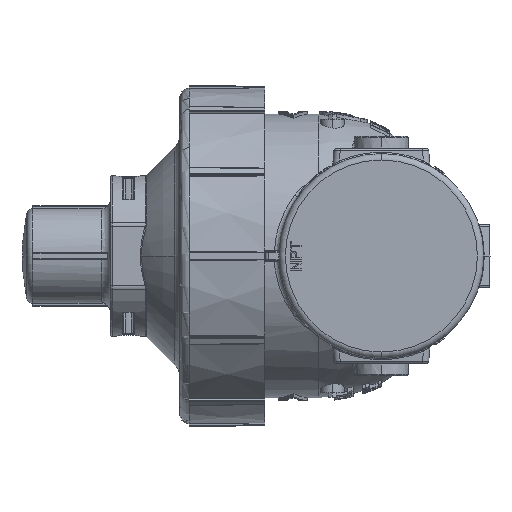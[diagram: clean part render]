
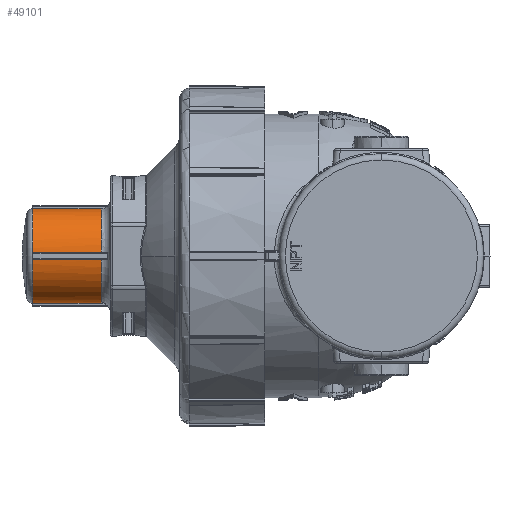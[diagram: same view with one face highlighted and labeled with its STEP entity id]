
A CAD part, left-side view. The second image highlights one B-rep face of the part: STEP entity #49101.
In plain terms, the highlighted cylindrical face has radius 15 mm (diameter 30 mm), a partial arc.
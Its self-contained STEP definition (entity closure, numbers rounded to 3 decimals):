
#109 = VERTEX_POINT ( 'NONE', #18796 ) ;
#113 = VERTEX_POINT ( 'NONE', #18802 ) ;
#2367 = CIRCLE ( 'NONE', #49377, 15. ) ;
#2370 = LINE ( 'NONE', #24097, #2372 ) ;
#2372 = VECTOR ( 'NONE', #24098, 1000. ) ;
#3533 = EDGE_CURVE ( 'NONE', #56570, #56575, #37307, .T. ) ;
#3535 = EDGE_CURVE ( 'NONE', #56570, #12041, #37309, .T. ) ;
#3673 = EDGE_CURVE ( 'NONE', #12041, #56578, #37573, .T. ) ;
#3681 = EDGE_CURVE ( 'NONE', #56582, #56644, #37580, .T. ) ;
#12041 = VERTEX_POINT ( 'NONE', #43432 ) ;
#12778 = EDGE_LOOP ( 'NONE', ( #17638, #17874, #56448, #17959, #17970, #17812, #17773, #17648, #17801, #17639, #17872, #17840 ) ) ;
#17638 = ORIENTED_EDGE ( 'NONE', *, *, #3533, .F. ) ;
#17639 = ORIENTED_EDGE ( 'NONE', *, *, #57858, .F. ) ;
#17648 = ORIENTED_EDGE ( 'NONE', *, *, #57856, .F. ) ;
#17773 = ORIENTED_EDGE ( 'NONE', *, *, #57855, .T. ) ;
#17801 = ORIENTED_EDGE ( 'NONE', *, *, #57857, .F. ) ;
#17812 = ORIENTED_EDGE ( 'NONE', *, *, #3681, .F. ) ;
#17840 = ORIENTED_EDGE ( 'NONE', *, *, #57860, .F. ) ;
#17872 = ORIENTED_EDGE ( 'NONE', *, *, #57859, .T. ) ;
#17874 = ORIENTED_EDGE ( 'NONE', *, *, #3535, .T. ) ;
#17959 = ORIENTED_EDGE ( 'NONE', *, *, #59401, .F. ) ;
#17970 = ORIENTED_EDGE ( 'NONE', *, *, #59402, .F. ) ;
#18796 = CARTESIAN_POINT ( 'NONE',  ( 14.948, 52., 1.25 ) ) ;
#18802 = CARTESIAN_POINT ( 'NONE',  ( 1.25, 52., -14.948 ) ) ;
#24097 = CARTESIAN_POINT ( 'NONE',  ( 0., -1.912, 15. ) ) ;
#24098 = DIRECTION ( 'NONE',  ( 0., 1., 0. ) ) ;
#24099 = CARTESIAN_POINT ( 'NONE',  ( 0., 73.64, 0. ) ) ;
#24100 = DIRECTION ( 'NONE',  ( 0., -1., 0. ) ) ;
#24101 = DIRECTION ( 'NONE',  ( 0., 0., 1. ) ) ;
#33301 = AXIS2_PLACEMENT_3D ( 'NONE', #42027, #42028, #42029 ) ;
#33306 = AXIS2_PLACEMENT_3D ( 'NONE', #42291, #42292, #42293 ) ;
#33979 = AXIS2_PLACEMENT_3D ( 'NONE', #40632, #40629, #40625 ) ;
#37307 = CIRCLE ( 'NONE', #33301, 15. ) ;
#37309 = LINE ( 'NONE', #42026, #37312 ) ;
#37312 = VECTOR ( 'NONE', #42008, 1000. ) ;
#37573 = CIRCLE ( 'NONE', #33306, 15. ) ;
#37580 = LINE ( 'NONE', #42302, #37584 ) ;
#37584 = VECTOR ( 'NONE', #42312, 1000. ) ;
#40625 = DIRECTION ( 'NONE',  ( 0., 0., 1. ) ) ;
#40629 = DIRECTION ( 'NONE',  ( 0., 1., 0. ) ) ;
#40632 = CARTESIAN_POINT ( 'NONE',  ( 0., -1.912, 0. ) ) ;
#42008 = DIRECTION ( 'NONE',  ( 0., 1., 0. ) ) ;
#42026 = CARTESIAN_POINT ( 'NONE',  ( 0., -1.912, -15. ) ) ;
#42027 = CARTESIAN_POINT ( 'NONE',  ( 0., 73.64, 0. ) ) ;
#42028 = DIRECTION ( 'NONE',  ( 0., -1., 0. ) ) ;
#42029 = DIRECTION ( 'NONE',  ( 0., 0., 1. ) ) ;
#42291 = CARTESIAN_POINT ( 'NONE',  ( 0., 73.644, 0. ) ) ;
#42292 = DIRECTION ( 'NONE',  ( 0., -1., 0. ) ) ;
#42293 = DIRECTION ( 'NONE',  ( 0., 0., -1. ) ) ;
#42302 = CARTESIAN_POINT ( 'NONE',  ( 1.25, -1.912, 14.948 ) ) ;
#42312 = DIRECTION ( 'NONE',  ( 0., 1., 0. ) ) ;
#43432 = CARTESIAN_POINT ( 'NONE',  ( 0., 73.644, -15. ) ) ;
#44674 = LINE ( 'NONE', #60432, #44686 ) ;
#44676 = LINE ( 'NONE', #60422, #44680 ) ;
#44679 = CIRCLE ( 'NONE', #48139, 15. ) ;
#44680 = VECTOR ( 'NONE', #60416, 1000. ) ;
#44681 = VECTOR ( 'NONE', #60426, 1000. ) ;
#44682 = LINE ( 'NONE', #60428, #44681 ) ;
#44683 = CIRCLE ( 'NONE', #48144, 15. ) ;
#44684 = CIRCLE ( 'NONE', #48142, 15. ) ;
#44686 = VECTOR ( 'NONE', #60427, 1000. ) ;
#48139 = AXIS2_PLACEMENT_3D ( 'NONE', #60423, #60424, #60425 ) ;
#48142 = AXIS2_PLACEMENT_3D ( 'NONE', #60429, #60430, #60431 ) ;
#48144 = AXIS2_PLACEMENT_3D ( 'NONE', #60433, #60434, #60435 ) ;
#49101 = ADVANCED_FACE ( 'NONE', ( #56209 ), #56211, .T. ) ;
#49377 = AXIS2_PLACEMENT_3D ( 'NONE', #24099, #24100, #24101 ) ;
#56209 = FACE_OUTER_BOUND ( 'NONE', #12778, .T. ) ;
#56211 = CYLINDRICAL_SURFACE ( 'NONE', #33979, 15. ) ;
#56448 = ORIENTED_EDGE ( 'NONE', *, *, #3673, .T. ) ;
#56570 = VERTEX_POINT ( 'NONE', #60389 ) ;
#56575 = VERTEX_POINT ( 'NONE', #60388 ) ;
#56578 = VERTEX_POINT ( 'NONE', #60390 ) ;
#56581 = VERTEX_POINT ( 'NONE', #60394 ) ;
#56582 = VERTEX_POINT ( 'NONE', #60391 ) ;
#56604 = VERTEX_POINT ( 'NONE', #60403 ) ;
#56605 = VERTEX_POINT ( 'NONE', #60404 ) ;
#56624 = VERTEX_POINT ( 'NONE', #60417 ) ;
#56644 = VERTEX_POINT ( 'NONE', #60420 ) ;
#57855 = EDGE_CURVE ( 'NONE', #56582, #109, #44679, .T. ) ;
#57856 = EDGE_CURVE ( 'NONE', #56581, #109, #44676, .T. ) ;
#57857 = EDGE_CURVE ( 'NONE', #56605, #56581, #44684, .T. ) ;
#57858 = EDGE_CURVE ( 'NONE', #56604, #56605, #44682, .T. ) ;
#57859 = EDGE_CURVE ( 'NONE', #56604, #113, #44683, .T. ) ;
#57860 = EDGE_CURVE ( 'NONE', #56575, #113, #44674, .T. ) ;
#59401 = EDGE_CURVE ( 'NONE', #56624, #56578, #2370, .T. ) ;
#59402 = EDGE_CURVE ( 'NONE', #56644, #56624, #2367, .T. ) ;
#60388 = CARTESIAN_POINT ( 'NONE',  ( 1.25, 73.64, -14.948 ) ) ;
#60389 = CARTESIAN_POINT ( 'NONE',  ( 0., 73.64, -15. ) ) ;
#60390 = CARTESIAN_POINT ( 'NONE',  ( 0., 73.644, 15. ) ) ;
#60391 = CARTESIAN_POINT ( 'NONE',  ( 1.25, 52., 14.948 ) ) ;
#60394 = CARTESIAN_POINT ( 'NONE',  ( 14.948, 73.64, 1.25 ) ) ;
#60403 = CARTESIAN_POINT ( 'NONE',  ( 14.948, 52., -1.25 ) ) ;
#60404 = CARTESIAN_POINT ( 'NONE',  ( 14.948, 73.64, -1.25 ) ) ;
#60416 = DIRECTION ( 'NONE',  ( 0., -1., 0. ) ) ;
#60417 = CARTESIAN_POINT ( 'NONE',  ( 0., 73.64, 15. ) ) ;
#60420 = CARTESIAN_POINT ( 'NONE',  ( 1.25, 73.64, 14.948 ) ) ;
#60422 = CARTESIAN_POINT ( 'NONE',  ( 14.948, -1.912, 1.25 ) ) ;
#60423 = CARTESIAN_POINT ( 'NONE',  ( 0., 52., 0. ) ) ;
#60424 = DIRECTION ( 'NONE',  ( 0., 1., 0. ) ) ;
#60425 = DIRECTION ( 'NONE',  ( 0., 0., 1. ) ) ;
#60426 = DIRECTION ( 'NONE',  ( 0., 1., 0. ) ) ;
#60427 = DIRECTION ( 'NONE',  ( 0., -1., 0. ) ) ;
#60428 = CARTESIAN_POINT ( 'NONE',  ( 14.948, -1.912, -1.25 ) ) ;
#60429 = CARTESIAN_POINT ( 'NONE',  ( 0., 73.64, 0. ) ) ;
#60430 = DIRECTION ( 'NONE',  ( 0., -1., 0. ) ) ;
#60431 = DIRECTION ( 'NONE',  ( 0., 0., 1. ) ) ;
#60432 = CARTESIAN_POINT ( 'NONE',  ( 1.25, -1.912, -14.948 ) ) ;
#60433 = CARTESIAN_POINT ( 'NONE',  ( 0., 52., 0. ) ) ;
#60434 = DIRECTION ( 'NONE',  ( 0., 1., 0. ) ) ;
#60435 = DIRECTION ( 'NONE',  ( 0., 0., 1. ) ) ;
